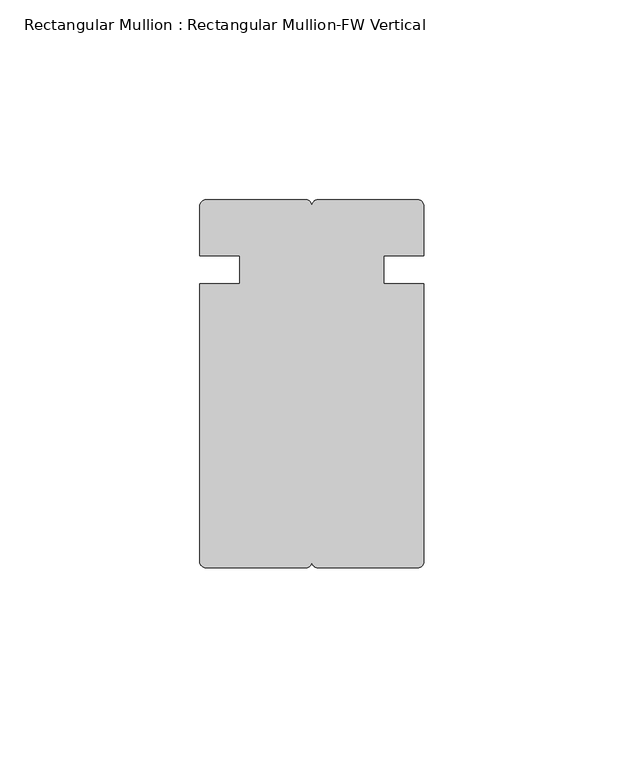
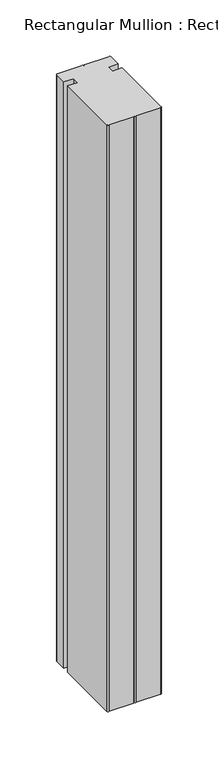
"""IFC4 building model written with IfcOpenShell, lengths in millimetres: member geometry, Rectangular Mullion : Rectangular Mullion-FW Vertical."""

from ifc_helpers import new_model, si_unit, frame, origin, place, context, project, spatial, circle_curve, source, transform, mapped, element, save
from ifc_brep_helpers import plane_surface, cylinder_surface, advanced_brep


def rectangular_mullion_rectangular_mullion_fw_vertical_616d87cb(model_context):
    return source(origin(), model_context, "Body", "AdvancedBrep", [
        advanced_brep(
        [(26.5201031, 0.0, 0.0), (1.4798969, 0.0, 0.0), (0.0, -1.4798969, 0.0), (-1.4798969, 0.0, 0.0), (-26.5201031, 0.0, 0.0), (-28.0, -1.4798969, 0.0), (-28.0, -14.0, 0.0), (-18.0, -14.0, 0.0), (-18.0, -21.0, 0.0), (-28.0, -21.0, 0.0), (-28.0, -90.5201031, 0.0), (-26.5201031, -92.0, 0.0), (-1.4798969, -92.0, 0.0), (0.0, -90.5201031, 0.0), (1.4798969, -92.0, 0.0), (26.5201031, -92.0, 0.0), (28.0, -90.5201031, 0.0), (28.0, -21.0, 0.0), (18.0, -21.0, 0.0), (18.0, -14.0, 0.0), (28.0, -14.0, 0.0), (28.0, -1.4798969, 0.0), (26.5201031, 0.0, -638.0), (28.0, -1.4798969, -638.0), (28.0, -14.0, -638.0), (18.0, -14.0, -638.0), (18.0, -21.0, -638.0), (28.0, -21.0, -638.0), (28.0, -90.5201031, -638.0), (26.5201031, -92.0, -638.0), (1.4798969, -92.0, -638.0), (0.0, -90.5201031, -638.0), (-1.4798969, -92.0, -638.0), (-26.5201031, -92.0, -638.0), (-28.0, -90.5201031, -638.0), (-28.0, -21.0, -638.0), (-18.0, -21.0, -638.0), (-18.0, -14.0, -638.0), (-28.0, -14.0, -638.0), (-28.0, -1.4798969, -638.0), (-26.5201031, 0.0, -638.0), (-1.4798969, 0.0, -638.0), (0.0, -1.4798969, -638.0), (1.4798969, 0.0, -638.0)],
        [
            (0, 1),
            (1, 2, circle_curve(frame((1.4798969, -1.4798969, 0.0), z_axis=(0.0, 0.0, 1.0), x_axis=(1.0, 0.0, 0.0)), 1.4798969)),
            (2, 3, circle_curve(frame((-1.4798969, -1.4798969, 0.0), z_axis=(0.0, 0.0, 1.0), x_axis=(1.0, 0.0, 0.0)), 1.4798969)),
            (3, 4),
            (4, 5, circle_curve(frame((-26.5201031, -1.4798969, 0.0), z_axis=(0.0, 0.0, 1.0), x_axis=(1.0, 0.0, 0.0)), 1.4798969)),
            (5, 6),
            (6, 7),
            (7, 8),
            (8, 9),
            (9, 10),
            (10, 11, circle_curve(frame((-26.5201031, -90.5201031, 0.0), z_axis=(0.0, 0.0, 1.0), x_axis=(1.0, 0.0, 0.0)), 1.4798969)),
            (11, 12),
            (12, 13, circle_curve(frame((-1.4798969, -90.5201031, 0.0), z_axis=(0.0, 0.0, 1.0), x_axis=(1.0, 0.0, 0.0)), 1.4798969)),
            (13, 14, circle_curve(frame((1.4798969, -90.5201031, 0.0), z_axis=(0.0, 0.0, 1.0), x_axis=(1.0, 0.0, 0.0)), 1.4798969)),
            (14, 15),
            (15, 16, circle_curve(frame((26.5201031, -90.5201031, 0.0), z_axis=(0.0, 0.0, 1.0), x_axis=(1.0, 0.0, 0.0)), 1.4798969)),
            (16, 17),
            (17, 18),
            (18, 19),
            (19, 20),
            (20, 21),
            (21, 0, circle_curve(frame((26.5201031, -1.4798969, 0.0), z_axis=(0.0, 0.0, 1.0), x_axis=(1.0, 0.0, 0.0)), 1.4798969)),
            (22, 23, circle_curve(frame((26.5201031, -1.4798969, -638.0), z_axis=(0.0, 0.0, -1.0), x_axis=(1.0, 0.0, 0.0)), 1.4798969)),
            (23, 24),
            (24, 25),
            (25, 26),
            (26, 27),
            (27, 28),
            (28, 29, circle_curve(frame((26.5201031, -90.5201031, -638.0), z_axis=(0.0, 0.0, -1.0), x_axis=(1.0, 0.0, 0.0)), 1.4798969)),
            (29, 30),
            (30, 31, circle_curve(frame((1.4798969, -90.5201031, -638.0), z_axis=(0.0, 0.0, -1.0), x_axis=(1.0, 0.0, 0.0)), 1.4798969)),
            (31, 32, circle_curve(frame((-1.4798969, -90.5201031, -638.0), z_axis=(0.0, 0.0, -1.0), x_axis=(1.0, 0.0, 0.0)), 1.4798969)),
            (32, 33),
            (33, 34, circle_curve(frame((-26.5201031, -90.5201031, -638.0), z_axis=(0.0, 0.0, -1.0), x_axis=(1.0, 0.0, 0.0)), 1.4798969)),
            (34, 35),
            (35, 36),
            (36, 37),
            (37, 38),
            (38, 39),
            (39, 40, circle_curve(frame((-26.5201031, -1.4798969, -638.0), z_axis=(0.0, 0.0, -1.0), x_axis=(1.0, 0.0, 0.0)), 1.4798969)),
            (40, 41),
            (41, 42, circle_curve(frame((-1.4798969, -1.4798969, -638.0), z_axis=(0.0, 0.0, -1.0), x_axis=(1.0, 0.0, 0.0)), 1.4798969)),
            (42, 43, circle_curve(frame((1.4798969, -1.4798969, -638.0), z_axis=(0.0, 0.0, -1.0), x_axis=(1.0, 0.0, 0.0)), 1.4798969)),
            (43, 22),
            (0, 22),
            (43, 1),
            (42, 2),
            (41, 3),
            (40, 4),
            (39, 5),
            (38, 6),
            (37, 7),
            (36, 8),
            (35, 9),
            (34, 10),
            (33, 11),
            (32, 12),
            (31, 13),
            (30, 14),
            (29, 15),
            (28, 16),
            (27, 17),
            (26, 18),
            (25, 19),
            (24, 20),
            (23, 21),
        ],
        [
            plane_surface(frame((0.0, -95.7461011, 0.0), z_axis=(0.0, 0.0, 1.0), x_axis=(-1.0, 0.0, 0.0))),
            plane_surface(frame((0.0, -95.7461011, -638.0), z_axis=(0.0, 0.0, -1.0), x_axis=(-1.0, 0.0, 0.0))),
            plane_surface(frame((26.5201031, 0.0, 0.0), z_axis=(0.0, 1.0, 0.0), x_axis=(0.0, 0.0, -1.0))),
            cylinder_surface(frame((1.4798969, -1.4798969, 0.0), z_axis=(0.0, 0.0, 1.0), x_axis=(1.0, 0.0, 0.0)), 1.4798969),
            cylinder_surface(frame((-1.4798969, -1.4798969, 0.0), z_axis=(0.0, 0.0, 1.0), x_axis=(1.0, 0.0, 0.0)), 1.4798969),
            plane_surface(frame((-1.4798969, 0.0, 0.0), z_axis=(0.0, 1.0, 0.0), x_axis=(0.0, 0.0, -1.0))),
            cylinder_surface(frame((-26.5201031, -1.4798969, 0.0), z_axis=(0.0, 0.0, 1.0), x_axis=(1.0, 0.0, 0.0)), 1.4798969),
            plane_surface(frame((-28.0, -1.4798969, 0.0), z_axis=(-1.0, 0.0, 0.0), x_axis=(0.0, 0.0, -1.0))),
            plane_surface(frame((-28.0, -14.0, 0.0), z_axis=(0.0, -1.0, 0.0), x_axis=(0.0, 0.0, -1.0))),
            plane_surface(frame((-18.0, -14.0, 0.0), z_axis=(-1.0, 0.0, 0.0), x_axis=(0.0, 0.0, -1.0))),
            plane_surface(frame((-18.0, -21.0, 0.0), z_axis=(0.0, 1.0, 0.0), x_axis=(0.0, 0.0, -1.0))),
            plane_surface(frame((-28.0, -21.0, 0.0), z_axis=(-1.0, 0.0, 0.0), x_axis=(0.0, 0.0, -1.0))),
            cylinder_surface(frame((-26.5201031, -90.5201031, 0.0), z_axis=(0.0, 0.0, 1.0), x_axis=(1.0, 0.0, 0.0)), 1.4798969),
            plane_surface(frame((-26.5201031, -92.0, 0.0), z_axis=(0.0, -1.0, 0.0), x_axis=(0.0, 0.0, -1.0))),
            cylinder_surface(frame((-1.4798969, -90.5201031, 0.0), z_axis=(0.0, 0.0, 1.0), x_axis=(1.0, 0.0, 0.0)), 1.4798969),
            cylinder_surface(frame((1.4798969, -90.5201031, 0.0), z_axis=(0.0, 0.0, 1.0), x_axis=(1.0, 0.0, 0.0)), 1.4798969),
            plane_surface(frame((1.4798969, -92.0, 0.0), z_axis=(0.0, -1.0, 0.0), x_axis=(0.0, 0.0, -1.0))),
            cylinder_surface(frame((26.5201031, -90.5201031, 0.0), z_axis=(0.0, 0.0, 1.0), x_axis=(1.0, 0.0, 0.0)), 1.4798969),
            plane_surface(frame((28.0, -90.5201031, 0.0), z_axis=(1.0, 0.0, 0.0), x_axis=(0.0, 0.0, -1.0))),
            plane_surface(frame((28.0, -21.0, 0.0), z_axis=(0.0, 1.0, 0.0), x_axis=(0.0, 0.0, -1.0))),
            plane_surface(frame((18.0, -21.0, 0.0), z_axis=(1.0, 0.0, 0.0), x_axis=(0.0, 0.0, -1.0))),
            plane_surface(frame((18.0, -14.0, 0.0), z_axis=(0.0, -1.0, 0.0), x_axis=(0.0, 0.0, -1.0))),
            plane_surface(frame((28.0, -14.0, 0.0), z_axis=(1.0, 0.0, 0.0), x_axis=(0.0, 0.0, -1.0))),
            cylinder_surface(frame((26.5201031, -1.4798969, 0.0), z_axis=(0.0, 0.0, 1.0), x_axis=(1.0, 0.0, 0.0)), 1.4798969),
        ],
        [
            (0, [[1, 2, 3, 4, 5, 6, 7, 8, 9, 10, 11, 12, 13, 14, 15, 16, 17, 18, 19, 20, 21, 22]]),
            (1, [[23, 24, 25, 26, 27, 28, 29, 30, 31, 32, 33, 34, 35, 36, 37, 38, 39, 40, 41, 42, 43, 44]]),
            (2, [[-1, 45, -44, 46]]),
            (3, [[-2, -46, -43, 47]]),
            (4, [[-3, -47, -42, 48]]),
            (5, [[-4, -48, -41, 49]]),
            (6, [[-5, -49, -40, 50]]),
            (7, [[-6, -50, -39, 51]]),
            (8, [[-7, -51, -38, 52]]),
            (9, [[-8, -52, -37, 53]]),
            (10, [[-9, -53, -36, 54]]),
            (11, [[-10, -54, -35, 55]]),
            (12, [[-11, -55, -34, 56]]),
            (13, [[-12, -56, -33, 57]]),
            (14, [[-13, -57, -32, 58]]),
            (15, [[-14, -58, -31, 59]]),
            (16, [[-15, -59, -30, 60]]),
            (17, [[-16, -60, -29, 61]]),
            (18, [[-17, -61, -28, 62]]),
            (19, [[-18, -62, -27, 63]]),
            (20, [[-19, -63, -26, 64]]),
            (21, [[-20, -64, -25, 65]]),
            (22, [[-21, -65, -24, 66]]),
            (23, [[-22, -66, -23, -45]]),
        ],
    ),
    ])


if __name__ == "__main__":
    model = new_model("IFC4")
    model_context = context("Model", 3, world=origin())
    ifc_project = project(units=[si_unit("LENGTHUNIT", "METRE", prefix="MILLI")], contexts=[model_context])
    site = spatial("IfcSite", under=ifc_project)
    building = spatial("IfcBuilding", under=site)
    placement = place(None, origin())
    rectangular_mullion_rectangular_mullion_fw_vertical_shape = rectangular_mullion_rectangular_mullion_fw_vertical_616d87cb(model_context)
    element("IfcMember", 1, ObjectType="Rectangular Mullion : Rectangular Mullion-FW Vertical", at=placement, inside=building, context=model_context, shape_type="MappedRepresentation", body=[
        mapped(rectangular_mullion_rectangular_mullion_fw_vertical_shape, transform((0.0, 0.0, 0.0), x_axis=(1.0, 0.0, 0.0), y_axis=(0.0, 1.0, 0.0), z_axis=(0.0, 0.0, 1.0))),
    ])
    save(model, "model.ifc")
